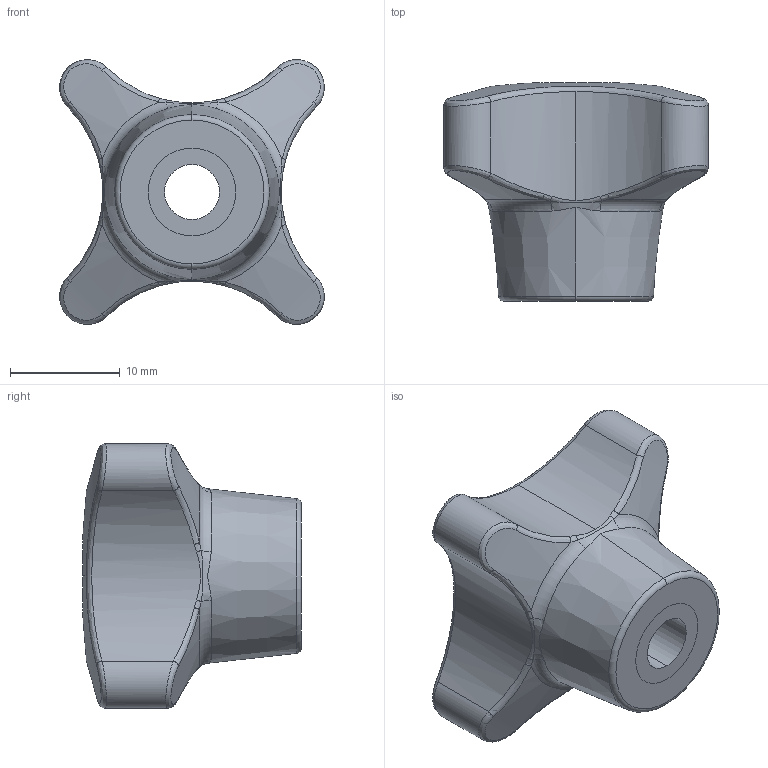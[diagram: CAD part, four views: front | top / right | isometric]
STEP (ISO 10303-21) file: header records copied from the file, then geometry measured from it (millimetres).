
FILE_DESCRIPTION (( 'STEP AP214' ), '1' );
FILE_NAME ('1121 32 401.STEP', '2010-11-26T15:43:00', ( 'Marc' ), ( '' ), 'SwSTEP 2.0', 'SolidWorks 2010', '' );
FILE_SCHEMA (( 'AUTOMOTIVE_DESIGN' ));
Length unit declared in the file: millimetre
Products named in the file (1): 1121 32 401
Bounding box: 24.11 x 19.91 x 24.11 mm (x, y, z)
Volume: 4844 mm3; surface area: 3054.3 mm2
Topology: 2 solids, 2 shells, 78 faces, 185 edges, 110 vertices
Faces by surface type: bspline 36, cylinder 21, cone 10, torus 6, plane 3, sphere 2
Entity records: 8409 total; most frequent: CARTESIAN_POINT 6690, ORIENTED_EDGE 370, DIRECTION 273, EDGE_CURVE 185, AXIS2_PLACEMENT_3D 123, VERTEX_POINT 110, EDGE_LOOP 81, CIRCLE 80
